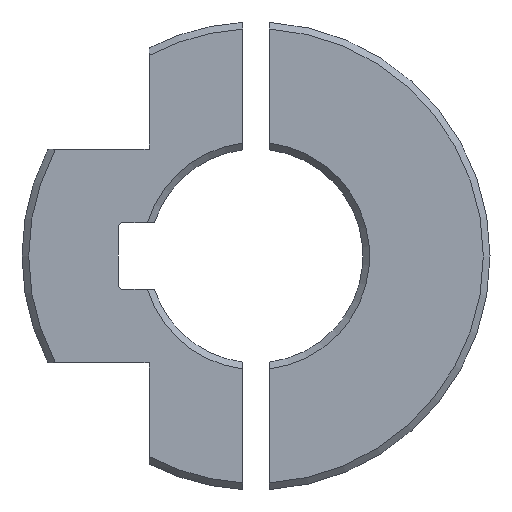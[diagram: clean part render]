
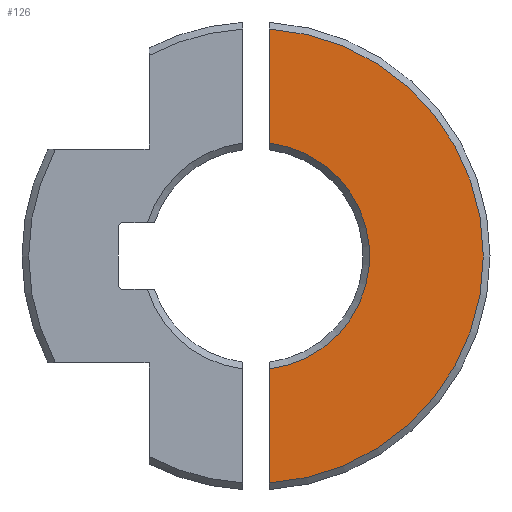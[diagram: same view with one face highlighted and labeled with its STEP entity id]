
A CAD part, front view. The second image highlights one B-rep face of the part: STEP entity #126.
In plain terms, the highlighted planar face has unit normal (0, -1, 0).
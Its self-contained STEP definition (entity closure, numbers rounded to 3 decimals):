
#126=ADVANCED_FACE('',(#530),#532,.F.);
#530=FACE_BOUND('',#531,.T.);
#531=EDGE_LOOP('',(#854,#855,#856,#857));
#532=PLANE('',#533);
#533=AXIS2_PLACEMENT_3D('',#534,#535,#536);
#534=CARTESIAN_POINT('',(0.,0.,0.));
#535=DIRECTION('',(0.,1.,0.));
#536=DIRECTION('',(-1.,0.,0.));
#854=ORIENTED_EDGE('',*,*,#1068,.T.);
#855=ORIENTED_EDGE('',*,*,#1052,.T.);
#856=ORIENTED_EDGE('',*,*,#1067,.F.);
#857=ORIENTED_EDGE('',*,*,#1069,.T.);
#1052=EDGE_CURVE('',#1170,#1168,#1171,.T.);
#1067=EDGE_CURVE('',#1193,#1168,#1195,.T.);
#1068=EDGE_CURVE('',#1196,#1170,#1197,.T.);
#1069=EDGE_CURVE('',#1193,#1196,#1198,.T.);
#1168=VERTEX_POINT('',#1380);
#1170=VERTEX_POINT('',#1391);
#1171=LINE('',#1392,#1393);
#1193=VERTEX_POINT('',#1470);
#1195=CIRCLE('',#1481,17.);
#1196=VERTEX_POINT('',#1485);
#1197=CIRCLE('',#1486,8.5);
#1198=LINE('',#1490,#1491);
#1380=CARTESIAN_POINT('',(1.,0.,-16.971));
#1391=CARTESIAN_POINT('',(1.,0.,-8.441));
#1392=CARTESIAN_POINT('',(1.,0.,-8.441));
#1393=VECTOR('',#1394,1.);
#1394=DIRECTION('',(0.,0.,-1.));
#1470=CARTESIAN_POINT('',(1.,0.,16.971));
#1481=AXIS2_PLACEMENT_3D('',#1482,#1483,#1484);
#1482=CARTESIAN_POINT('',(0.,0.,0.));
#1483=DIRECTION('',(0.,1.,0.));
#1484=DIRECTION('',(0.059,0.,0.998));
#1485=CARTESIAN_POINT('',(1.,0.,8.441));
#1486=AXIS2_PLACEMENT_3D('',#1487,#1488,#1489);
#1487=CARTESIAN_POINT('',(0.,0.,0.));
#1488=DIRECTION('',(0.,1.,0.));
#1489=DIRECTION('',(0.118,0.,0.993));
#1490=CARTESIAN_POINT('',(1.,0.,16.971));
#1491=VECTOR('',#1492,1.);
#1492=DIRECTION('',(0.,0.,-1.));
